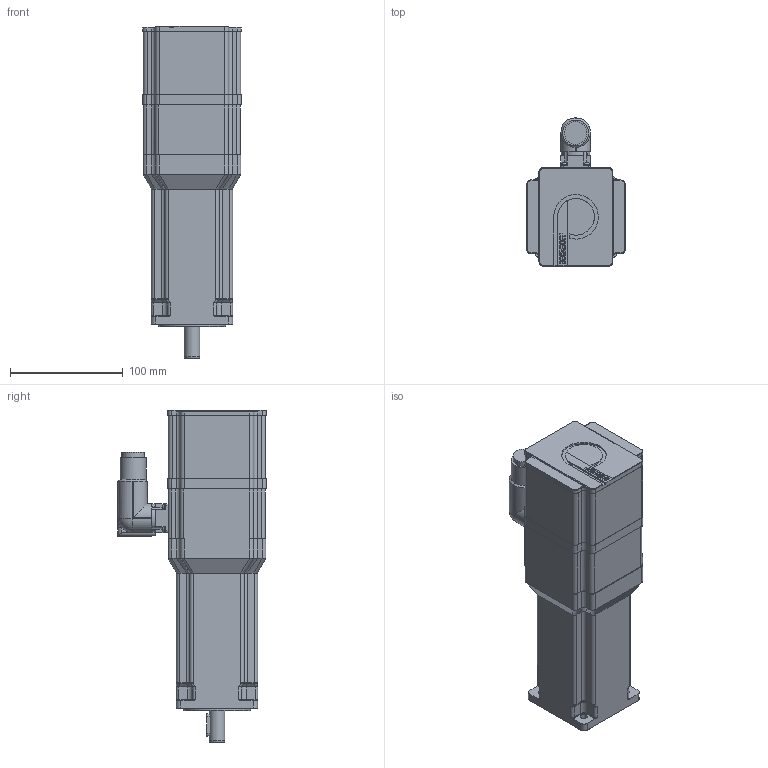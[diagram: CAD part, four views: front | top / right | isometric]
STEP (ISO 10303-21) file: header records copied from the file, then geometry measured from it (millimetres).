
FILE_DESCRIPTION(/* description */ (''),/* implementation_level */ '2;1');
FILE_NAME(/* name */ 'C:\Autodesk Vault\AUTODESK_VAULT\CAD\000-FERTIG Motors\UM-Motoren\UM070\_Gesamtbaugruppen\vereinfachte_Modelle\AMP8531-xxx0-xxxx.stp',/* time_stamp */ '2022-07-20T12:35:13+02:00',/* author */ ('JoachimH'),/* organization */ ('FERTIG Motors'),/* preprocessor_version */ 'ST-DEVELOPER v18.1',/* originating_system */ 'Autodesk Inventor 2021',/* authorisation */ '');
FILE_SCHEMA (('CONFIG_CONTROL_DESIGN'));
Length unit declared in the file: millimetre
Products named in the file (4): AMP853x-xxxx-xxxx; AMP853x-xxxx-xxxx_1; EtherCATP_M23-VM; DIN 6885-A5x5x20
Assembly tree (3 placements, depth 2):
  AMP853x-xxxx-xxxx
    AMP853x-xxxx-xxxx_1
    EtherCATP_M23-VM
    DIN 6885-A5x5x20
Bounding box: 87.1 x 131.35 x 294.3 mm (x, y, z)
Volume: 1594171.6 mm3; surface area: 106013.3 mm2
Topology: 3 solids, 3 shells, 589 faces, 1491 edges, 921 vertices
Faces by surface type: plane 267, cylinder 170, bspline 112, torus 29, cone 9, sphere 2
Full cylindrical faces by diameter (mm): 4.2 x1, 4.8 x3, 5.3 x1, 6 x4, 13.6 x1, 14 x1, 20 x2, 20.1 x1, 23 x1, 60 x1
Entity records: 19827 total; most frequent: CARTESIAN_POINT 5354, ORIENTED_EDGE 2958, DIRECTION 2728, EDGE_CURVE 1479, AXIS2_PLACEMENT_3D 929, VERTEX_POINT 921, LINE 870, VECTOR 870
